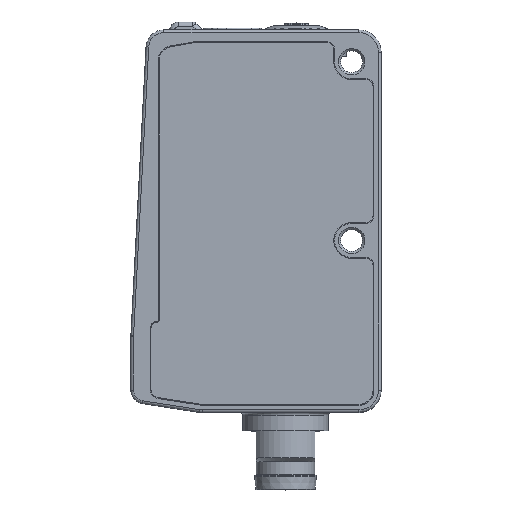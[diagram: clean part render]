
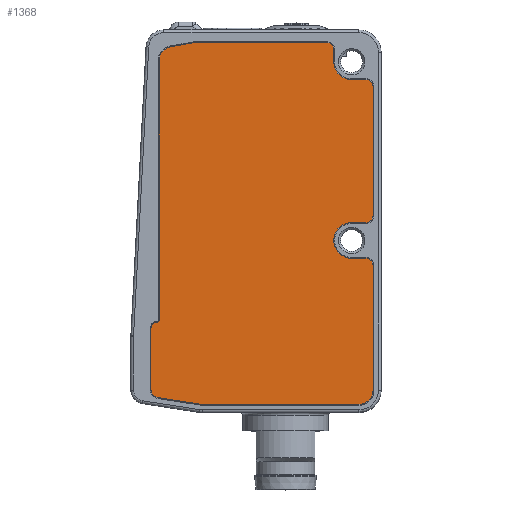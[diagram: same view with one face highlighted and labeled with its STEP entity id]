
A CAD part, top view. The second image highlights one B-rep face of the part: STEP entity #1368.
In plain terms, the highlighted planar face has unit normal (0, 0, 1).
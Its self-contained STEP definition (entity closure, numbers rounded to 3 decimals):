
#1368=ADVANCED_FACE('',(#1742),#1578,.T.);
#1578=PLANE('',#5736);
#1742=FACE_OUTER_BOUND('',#2017,.T.);
#2017=EDGE_LOOP('',(#3154,#3155,#3156,#3157,#3158,#3159,#3160,#3161,#3162,
#3163,#3164,#3165,#3166,#3167,#3168,#3169,#3170,#3171,#3172,#3173,#3174,
#3175,#3176,#3177,#3178));
#2384=CIRCLE('',#5703,2.);
#2385=CIRCLE('',#5708,2.);
#2386=CIRCLE('',#5714,0.8);
#2387=CIRCLE('',#5716,0.8);
#2388=CIRCLE('',#5718,0.8);
#2389=CIRCLE('',#5720,0.8);
#2390=CIRCLE('',#5722,1.6);
#2391=CIRCLE('',#5724,1.);
#2392=CIRCLE('',#5726,1.6);
#2393=CIRCLE('',#5728,1.6);
#2394=CIRCLE('',#5730,0.2);
#2395=CIRCLE('',#5732,0.7);
#2396=CIRCLE('',#5734,1.);
#3154=ORIENTED_EDGE('',*,*,#4533,.F.);
#3155=ORIENTED_EDGE('',*,*,#4581,.T.);
#3156=ORIENTED_EDGE('',*,*,#4568,.F.);
#3157=ORIENTED_EDGE('',*,*,#4577,.T.);
#3158=ORIENTED_EDGE('',*,*,#4565,.F.);
#3159=ORIENTED_EDGE('',*,*,#4574,.T.);
#3160=ORIENTED_EDGE('',*,*,#4562,.F.);
#3161=ORIENTED_EDGE('',*,*,#4573,.T.);
#3162=ORIENTED_EDGE('',*,*,#4559,.F.);
#3163=ORIENTED_EDGE('',*,*,#4558,.F.);
#3164=ORIENTED_EDGE('',*,*,#4555,.F.);
#3165=ORIENTED_EDGE('',*,*,#4572,.T.);
#3166=ORIENTED_EDGE('',*,*,#4552,.F.);
#3167=ORIENTED_EDGE('',*,*,#4571,.T.);
#3168=ORIENTED_EDGE('',*,*,#4549,.F.);
#3169=ORIENTED_EDGE('',*,*,#4548,.F.);
#3170=ORIENTED_EDGE('',*,*,#4545,.F.);
#3171=ORIENTED_EDGE('',*,*,#4570,.T.);
#3172=ORIENTED_EDGE('',*,*,#4542,.F.);
#3173=ORIENTED_EDGE('',*,*,#4575,.T.);
#3174=ORIENTED_EDGE('',*,*,#4539,.F.);
#3175=ORIENTED_EDGE('',*,*,#4576,.T.);
#3176=ORIENTED_EDGE('',*,*,#4536,.F.);
#3177=ORIENTED_EDGE('',*,*,#4579,.T.);
#3178=ORIENTED_EDGE('',*,*,#4580,.T.);
#4016=VERTEX_POINT('',#8311);
#4017=VERTEX_POINT('',#8313);
#4018=VERTEX_POINT('',#8317);
#4019=VERTEX_POINT('',#8319);
#4020=VERTEX_POINT('',#8323);
#4021=VERTEX_POINT('',#8325);
#4022=VERTEX_POINT('',#8329);
#4023=VERTEX_POINT('',#8331);
#4024=VERTEX_POINT('',#8335);
#4025=VERTEX_POINT('',#8337);
#4026=VERTEX_POINT('',#8341);
#4027=VERTEX_POINT('',#8345);
#4028=VERTEX_POINT('',#8349);
#4029=VERTEX_POINT('',#8351);
#4030=VERTEX_POINT('',#8355);
#4031=VERTEX_POINT('',#8357);
#4032=VERTEX_POINT('',#8361);
#4033=VERTEX_POINT('',#8365);
#4034=VERTEX_POINT('',#8369);
#4035=VERTEX_POINT('',#8371);
#4036=VERTEX_POINT('',#8375);
#4037=VERTEX_POINT('',#8377);
#4038=VERTEX_POINT('',#8381);
#4039=VERTEX_POINT('',#8383);
#4040=VERTEX_POINT('',#8403);
#4533=EDGE_CURVE('',#4016,#4017,#5010,.T.);
#4536=EDGE_CURVE('',#4018,#4019,#5013,.T.);
#4539=EDGE_CURVE('',#4020,#4021,#5016,.T.);
#4542=EDGE_CURVE('',#4022,#4023,#5019,.T.);
#4545=EDGE_CURVE('',#4024,#4025,#5022,.T.);
#4548=EDGE_CURVE('',#4025,#4026,#2384,.T.);
#4549=EDGE_CURVE('',#4026,#4027,#5025,.T.);
#4552=EDGE_CURVE('',#4028,#4029,#5028,.T.);
#4555=EDGE_CURVE('',#4030,#4031,#5031,.T.);
#4558=EDGE_CURVE('',#4031,#4032,#2385,.T.);
#4559=EDGE_CURVE('',#4032,#4033,#5034,.T.);
#4562=EDGE_CURVE('',#4034,#4035,#5037,.T.);
#4565=EDGE_CURVE('',#4036,#4037,#5040,.T.);
#4568=EDGE_CURVE('',#4038,#4039,#5043,.T.);
#4570=EDGE_CURVE('',#4024,#4023,#2386,.T.);
#4571=EDGE_CURVE('',#4028,#4027,#2387,.T.);
#4572=EDGE_CURVE('',#4030,#4029,#2388,.T.);
#4573=EDGE_CURVE('',#4034,#4033,#2389,.T.);
#4574=EDGE_CURVE('',#4036,#4035,#2390,.T.);
#4575=EDGE_CURVE('',#4022,#4021,#2391,.T.);
#4576=EDGE_CURVE('',#4020,#4019,#2392,.T.);
#4577=EDGE_CURVE('',#4038,#4037,#2393,.T.);
#4579=EDGE_CURVE('',#4018,#4040,#2394,.T.);
#4580=EDGE_CURVE('',#4040,#4017,#2395,.T.);
#4581=EDGE_CURVE('',#4016,#4039,#2396,.T.);
#5010=LINE('',#8312,#5298);
#5013=LINE('',#8318,#5301);
#5016=LINE('',#8324,#5304);
#5019=LINE('',#8330,#5307);
#5022=LINE('',#8336,#5310);
#5025=LINE('',#8344,#5313);
#5028=LINE('',#8350,#5316);
#5031=LINE('',#8356,#5319);
#5034=LINE('',#8364,#5322);
#5037=LINE('',#8370,#5325);
#5040=LINE('',#8376,#5328);
#5043=LINE('',#8382,#5331);
#5298=VECTOR('',#6615,1.);
#5301=VECTOR('',#6620,1.);
#5304=VECTOR('',#6625,1.);
#5307=VECTOR('',#6630,1.);
#5310=VECTOR('',#6635,1.);
#5313=VECTOR('',#6644,1.);
#5316=VECTOR('',#6649,1.);
#5319=VECTOR('',#6654,1.);
#5322=VECTOR('',#6663,1.);
#5325=VECTOR('',#6668,1.);
#5328=VECTOR('',#6673,1.);
#5331=VECTOR('',#6678,1.);
#5703=AXIS2_PLACEMENT_3D('',#8342,#6640,#6641);
#5708=AXIS2_PLACEMENT_3D('',#8362,#6659,#6660);
#5714=AXIS2_PLACEMENT_3D('',#8386,#6682,#6683);
#5716=AXIS2_PLACEMENT_3D('',#8388,#6686,#6687);
#5718=AXIS2_PLACEMENT_3D('',#8390,#6690,#6691);
#5720=AXIS2_PLACEMENT_3D('',#8392,#6694,#6695);
#5722=AXIS2_PLACEMENT_3D('',#8394,#6698,#6699);
#5724=AXIS2_PLACEMENT_3D('',#8396,#6702,#6703);
#5726=AXIS2_PLACEMENT_3D('',#8398,#6706,#6707);
#5728=AXIS2_PLACEMENT_3D('',#8400,#6710,#6711);
#5730=AXIS2_PLACEMENT_3D('',#8404,#6715,#6716);
#5732=AXIS2_PLACEMENT_3D('',#8406,#6719,#6720);
#5734=AXIS2_PLACEMENT_3D('',#8408,#6723,#6724);
#5736=AXIS2_PLACEMENT_3D('',#8410,#6727,#6728);
#6615=DIRECTION('',(0.,1.,0.));
#6620=DIRECTION('',(0.,1.,0.));
#6625=DIRECTION('',(0.985,0.174,0.));
#6630=DIRECTION('',(1.,0.,0.));
#6635=DIRECTION('',(0.,-1.,0.));
#6640=DIRECTION('',(0.,0.,1.));
#6641=DIRECTION('',(1.,0.,0.));
#6644=DIRECTION('',(1.,0.,0.));
#6649=DIRECTION('',(0.,-1.,0.));
#6654=DIRECTION('',(-1.,0.,0.));
#6659=DIRECTION('',(0.,0.,1.));
#6660=DIRECTION('',(1.,0.,0.));
#6663=DIRECTION('',(1.,0.,0.));
#6668=DIRECTION('',(0.,-1.,0.));
#6673=DIRECTION('',(-1.,0.,0.));
#6678=DIRECTION('',(-0.988,0.153,0.));
#6682=DIRECTION('',(0.,0.,1.));
#6683=DIRECTION('',(1.,0.,0.));
#6686=DIRECTION('',(0.,0.,1.));
#6687=DIRECTION('',(1.,0.,0.));
#6690=DIRECTION('',(0.,0.,1.));
#6691=DIRECTION('',(1.,0.,0.));
#6694=DIRECTION('',(0.,0.,1.));
#6695=DIRECTION('',(1.,0.,0.));
#6698=DIRECTION('',(0.,0.,1.));
#6699=DIRECTION('',(1.,0.,0.));
#6702=DIRECTION('',(0.,0.,1.));
#6703=DIRECTION('',(1.,0.,0.));
#6706=DIRECTION('',(0.,0.,1.));
#6707=DIRECTION('',(1.,0.,0.));
#6710=DIRECTION('',(0.,0.,1.));
#6711=DIRECTION('',(1.,0.,0.));
#6715=DIRECTION('',(0.,0.,-1.));
#6716=DIRECTION('',(1.,0.,0.));
#6719=DIRECTION('',(0.,0.,1.));
#6720=DIRECTION('',(1.,0.,0.));
#6723=DIRECTION('',(0.,0.,1.));
#6724=DIRECTION('',(1.,0.,0.));
#6727=DIRECTION('',(0.,0.,1.));
#6728=DIRECTION('',(1.,0.,0.));
#8311=CARTESIAN_POINT('',(-11.75,-18.751,15.));
#8312=CARTESIAN_POINT('',(-11.75,-19.608,15.));
#8313=CARTESIAN_POINT('',(-11.75,-11.991,15.));
#8317=CARTESIAN_POINT('',(-10.85,-11.091,15.));
#8318=CARTESIAN_POINT('',(-10.85,-11.291,15.));
#8319=CARTESIAN_POINT('',(-10.85,17.944,15.));
#8323=CARTESIAN_POINT('',(-9.528,19.519,15.));
#8324=CARTESIAN_POINT('',(-10.85,19.286,15.));
#8325=CARTESIAN_POINT('',(-6.836,19.994,15.));
#8329=CARTESIAN_POINT('',(-6.663,20.009,15.));
#8330=CARTESIAN_POINT('',(-6.75,20.009,15.));
#8331=CARTESIAN_POINT('',(7.9,20.009,15.));
#8335=CARTESIAN_POINT('',(8.7,19.209,15.));
#8336=CARTESIAN_POINT('',(8.7,20.009,15.));
#8337=CARTESIAN_POINT('',(8.7,17.85,15.));
#8341=CARTESIAN_POINT('',(10.7,15.85,15.));
#8342=CARTESIAN_POINT('',(10.7,17.85,15.));
#8344=CARTESIAN_POINT('',(10.7,15.85,15.));
#8345=CARTESIAN_POINT('',(12.3,15.85,15.));
#8349=CARTESIAN_POINT('',(13.1,15.05,15.));
#8350=CARTESIAN_POINT('',(13.1,15.85,15.));
#8351=CARTESIAN_POINT('',(13.1,0.65,15.));
#8355=CARTESIAN_POINT('',(12.3,-0.15,15.));
#8356=CARTESIAN_POINT('',(13.1,-0.15,15.));
#8357=CARTESIAN_POINT('',(10.7,-0.15,15.));
#8361=CARTESIAN_POINT('',(10.7,-4.15,15.));
#8362=CARTESIAN_POINT('',(10.7,-2.15,15.));
#8364=CARTESIAN_POINT('',(10.7,-4.15,15.));
#8365=CARTESIAN_POINT('',(12.3,-4.15,15.));
#8369=CARTESIAN_POINT('',(13.1,-4.95,15.));
#8370=CARTESIAN_POINT('',(13.1,-4.15,15.));
#8371=CARTESIAN_POINT('',(13.1,-18.891,15.));
#8375=CARTESIAN_POINT('',(11.5,-20.491,15.));
#8376=CARTESIAN_POINT('',(13.1,-20.491,15.));
#8377=CARTESIAN_POINT('',(-5.927,-20.491,15.));
#8381=CARTESIAN_POINT('',(-6.172,-20.472,15.));
#8382=CARTESIAN_POINT('',(-6.05,-20.491,15.));
#8383=CARTESIAN_POINT('',(-10.903,-19.74,15.));
#8386=CARTESIAN_POINT('',(7.9,19.209,15.));
#8388=CARTESIAN_POINT('',(12.3,15.05,15.));
#8390=CARTESIAN_POINT('',(12.3,0.65,15.));
#8392=CARTESIAN_POINT('',(12.3,-4.95,15.));
#8394=CARTESIAN_POINT('',(11.5,-18.891,15.));
#8396=CARTESIAN_POINT('',(-6.663,19.009,15.));
#8398=CARTESIAN_POINT('',(-9.25,17.944,15.));
#8400=CARTESIAN_POINT('',(-5.927,-18.891,15.));
#8403=CARTESIAN_POINT('',(-11.05,-11.291,15.));
#8404=CARTESIAN_POINT('',(-11.05,-11.091,15.));
#8406=CARTESIAN_POINT('',(-11.05,-11.991,15.));
#8408=CARTESIAN_POINT('',(-10.75,-18.751,15.));
#8410=CARTESIAN_POINT('',(10.7,17.85,15.));
